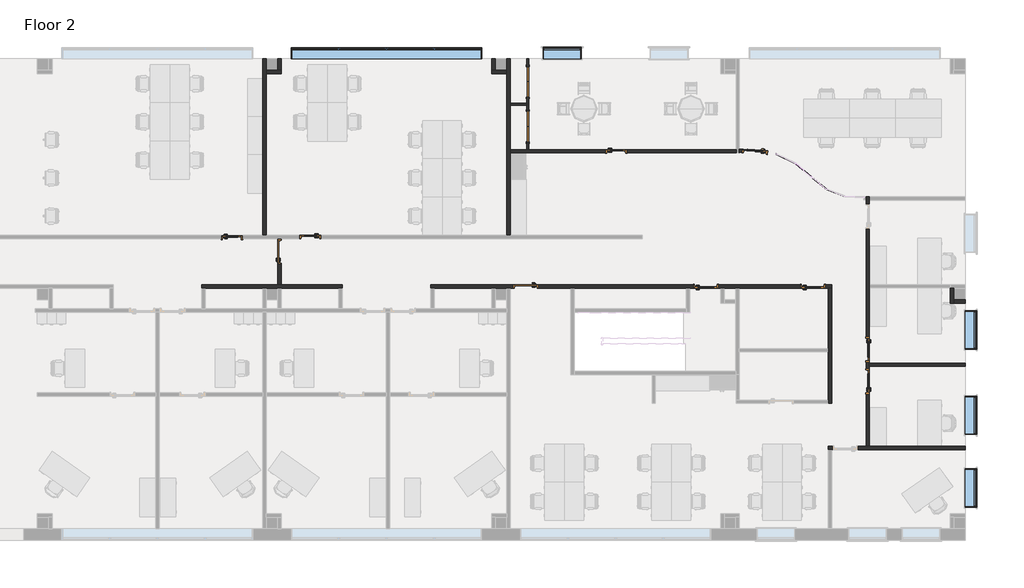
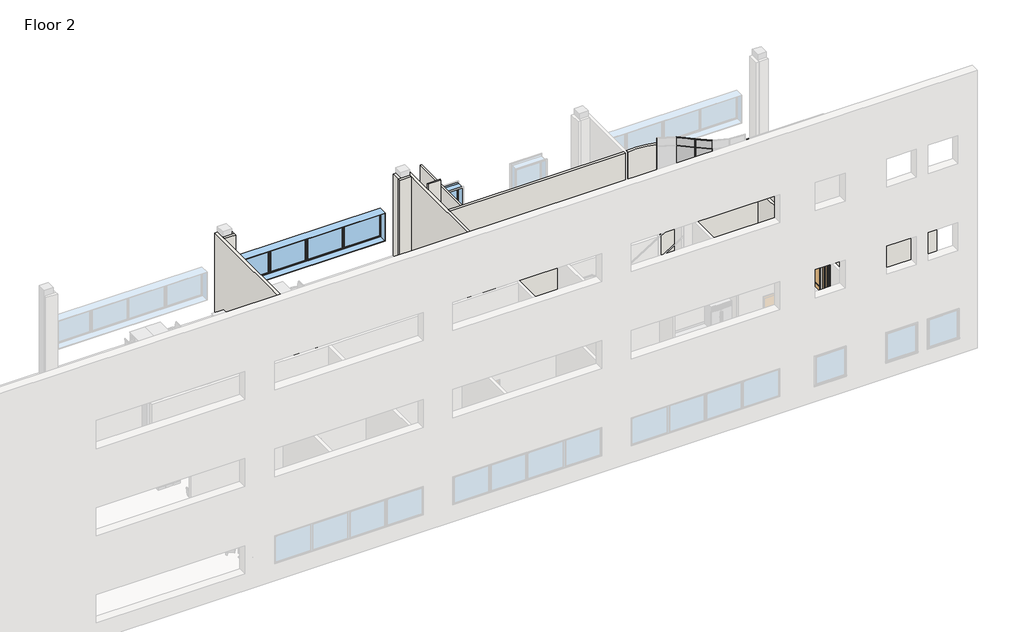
# One storey, part 4 of 7: 19 walls, 16 members, 12 doors, 6 plates, 5 windows.
"""IFC4 building model written with IfcOpenShell, lengths in millimetres."""

from ifc_helpers import new_model, si_unit, frame, origin, place, context, project, spatial, polyline, circle_curve, outline, extrude, faceted_brep, transform, mapped, element, save
from ifc_brep_helpers import plane_surface, cylinder_surface, revolved_surface, advanced_brep
from components import door_f69827bf, door_36f17018, door_a46f4f49, door_f206b04c, door_a28de425, door_74639fb8, door_4cfbdd5f, door_b5f71497, door_dac99271, member_834e91f0, member_ea1833a9, member_997af995, member_99ddd2ca, member_c703cf53, member_f42e476a, member_8995069b, member_6a737cc0, member_2ca0dabc, member_3a403b9d, member_f4e4bb89, system_panel_glazed_970fcf6f, system_panel_glazed_1b99a4e4, system_panel_glazed_e012e687, system_panel_glazed_4739128b, system_panel_glazed_9a7f91f8, system_panel_glazed_b32ab771, window_casement_multi_sash_horizontal_25_x_5ft_0e5d08e3, window_45f0c9e0

model = new_model("IFC4")

# Units and contexts
model_context = context("Model", 3, world=origin())
ifc_project = project(units=[si_unit("LENGTHUNIT", "METRE", prefix="MILLI")], contexts=[model_context])

# Site, building, storey
site = spatial("IfcSite", under=ifc_project)
building = spatial("IfcBuilding", under=site)
storey = spatial("IfcBuildingStorey", under=building, Name="Floor 2", Elevation=5486.4)

# Doors
placement = place(None, origin())
door_shape = door_f69827bf(model_context)
element("IfcDoor", 1, ObjectType="Door-Double-Flush_Panel : 48\" x 84\"", at=placement, inside=storey, context=model_context, shape_type="MappedRepresentation", body=[
    mapped(door_shape, transform((44045.2192024, 56452.299389, 5486.4), x_axis=(0.0, -1.0, 0.0), y_axis=(1.0, 0.0, 0.0), z_axis=(0.0, 0.0, 1.0))),
])
element("IfcDoor", 2, ObjectType="Door-Double-Flush_Panel : 48\" x 84\"", at=placement, inside=storey, context=model_context, shape_type="MappedRepresentation", body=[
    mapped(door_shape, transform((44045.2192024, 54660.011889, 5486.4), x_axis=(0.0, -1.0, 0.0), y_axis=(1.0, 0.0, 0.0), z_axis=(0.0, 0.0, 1.0))),
])
door_2_shape = door_36f17018(model_context)
element("IfcDoor", 3, ObjectType="Door-Passage-Single-Flush : 36\" x 84\"", at=placement, inside=storey, context=model_context, shape_type="MappedRepresentation", body=[
    mapped(door_2_shape, transform((43969.0192024, 48284.611889, 5486.4), x_axis=(-1.0, 0.0, 0.0), y_axis=(0.0, -1.0, 0.0), z_axis=(0.0, 0.0, 1.0))),
])
door_3_shape = door_a46f4f49(model_context)
element("IfcDoor", 4, ObjectType="Door-Passage-Single-Flush : 36\" x 84\"", at=placement, inside=storey, context=model_context, shape_type="MappedRepresentation", body=[
    mapped(door_3_shape, transform((34145.5692024, 49675.261889, 5486.4), x_axis=(0.0, 1.0, 0.0), y_axis=(-1.0, 0.0, 0.0), z_axis=(0.0, 0.0, 1.0))),
])
door_4_shape = door_f206b04c(model_context)
element("IfcDoor", 5, ObjectType="Door-Passage-Single-Full_Lite : 30\" x 84\"", at=placement, inside=storey, context=model_context, shape_type="MappedRepresentation", body=[
    mapped(door_4_shape, transform((47582.1692024, 53675.761889, 5486.4), x_axis=(1.0, 0.0, 0.0), y_axis=(0.0, 1.0, 0.0), z_axis=(0.0, 0.0, 1.0))),
])
door_5_shape = door_a28de425(model_context)
element("IfcDoor", 6, ObjectType="Door-Passage-Single-Full_Lite : 30\" x 84\"", at=placement, inside=storey, context=model_context, shape_type="MappedRepresentation", body=[
    mapped(door_5_shape, transform((35371.1192024, 50253.111889, 5486.4), x_axis=(-1.0, 0.0, 0.0), y_axis=(0.0, -1.0, 0.0), z_axis=(0.0, 0.0, 1.0))),
])
door_6_shape = door_74639fb8(model_context)
element("IfcDoor", 7, ObjectType="Door-Passage-Single-Full_Lite : 30\" x 84\"", at=placement, inside=storey, context=model_context, shape_type="MappedRepresentation", body=[
    mapped(door_6_shape, transform((32240.5692024, 50253.111889, 5486.4), x_axis=(1.0, 0.0, 0.0), y_axis=(0.0, 1.0, 0.0), z_axis=(0.0, 0.0, 1.0))),
])
door_7_shape = door_4cfbdd5f(model_context)
element("IfcDoor", 8, ObjectType="Door-Passage-Single-Full_Lite : 36\" x 84\"", at=placement, inside=storey, context=model_context, shape_type="MappedRepresentation", body=[
    mapped(door_7_shape, transform((55424.4192024, 48297.311889, 5486.4), x_axis=(1.0, 0.0, 0.0), y_axis=(0.0, 1.0, 0.0), z_axis=(0.0, 0.0, 1.0))),
])
element("IfcDoor", 9, ObjectType="Door-Passage-Single-Full_Lite : 36\" x 84\"", at=placement, inside=storey, context=model_context, shape_type="MappedRepresentation", body=[
    mapped(door_7_shape, transform((51157.2192024, 48297.311889, 5486.4), x_axis=(1.0, 0.0, 0.0), y_axis=(0.0, 1.0, 0.0), z_axis=(0.0, 0.0, 1.0))),
])
door_8_shape = door_b5f71497(model_context)
element("IfcDoor", 10, ObjectType="Door-Passage-Single-Full_Lite : 36\" x 84\"", at=placement, inside=storey, context=model_context, shape_type="MappedRepresentation", body=[
    mapped(door_8_shape, transform((53107.2341239, 53660.5521638, 5486.4), x_axis=(-0.9977672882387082, 0.06678651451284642, 0.0), y_axis=(-0.06678651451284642, -0.9977672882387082, 0.0), z_axis=(0.0, 0.0, 1.0))),
])
element("IfcDoor", 11, ObjectType="Door-Passage-Single-Full_Lite : 36\" x 84\"", at=placement, inside=storey, context=model_context, shape_type="MappedRepresentation", body=[
    mapped(door_8_shape, transform((57608.8192024, 44497.8952223, 5486.4), x_axis=(0.0, 1.0, 0.0), y_axis=(-1.0, 0.0, 0.0), z_axis=(0.0, 0.0, 1.0))),
])
door_9_shape = door_dac99271(model_context)
element("IfcDoor", 12, ObjectType="Door-Passage-Single-Full_Lite : 36\" x 84\"", at=placement, inside=storey, context=model_context, shape_type="MappedRepresentation", body=[
    mapped(door_9_shape, transform((57608.8192024, 45767.8952223, 5486.4), x_axis=(0.0, -1.0, 0.0), y_axis=(1.0, 0.0, 0.0), z_axis=(0.0, 0.0, 1.0))),
])

# Members
member_shape = member_834e91f0(model_context)
element("IfcMember", 13, ObjectType="Rectangular Mullion1 : 1\" Square", at=placement, inside=storey, context=model_context, shape_type="MappedRepresentation", body=[
    mapped(member_shape, transform((55370.0845568, 52611.7453813, 10210.8), x_axis=(0.0, 0.0, 1.0), y_axis=(-0.6484934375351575, -0.7612202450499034, 0.0), z_axis=(0.7612202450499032, -0.6484934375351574, 0.0))),
])
element("IfcMember", 14, ObjectType="Rectangular Mullion1 : 1\" Square", at=placement, inside=storey, context=model_context, shape_type="MappedRepresentation", body=[
    mapped(member_shape, transform((53929.3841475, 53547.3000917, 5486.4), x_axis=(0.0, 0.0, -1.0), y_axis=(-0.43160178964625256, -0.9020642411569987, 0.0), z_axis=(-0.9020642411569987, 0.43160178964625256, 0.0))),
])
member_2_shape = member_ea1833a9(model_context)
element("IfcMember", 15, ObjectType="Rectangular Mullion1 : 1\" Square", at=placement, inside=storey, context=model_context, shape_type="MappedRepresentation", body=[
    mapped(member_2_shape, transform((55350.7495626, 52628.2171146, 7620.0), x_axis=(0.0, 0.0, 1.0), y_axis=(-0.6484934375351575, -0.7612202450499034, 0.0), z_axis=(0.7612202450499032, -0.6484934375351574, 0.0))),
])
member_3_shape = member_997af995(model_context)
element("IfcMember", 16, ObjectType="Rectangular Mullion1 : 1\" Square", at=placement, inside=storey, context=model_context, shape_type="MappedRepresentation", body=[
    mapped(member_3_shape, transform((55973.7447178, 52125.501763, 5511.8), x_axis=(0.867376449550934, -0.4976525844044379, 0.0), y_axis=(-0.4976525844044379, -0.867376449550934, 0.0), z_axis=(0.0, 0.0, -1.0))),
])
member_4_shape = member_99ddd2ca(model_context)
element("IfcMember", 17, ObjectType="Rectangular Mullion1 : 1\" Square", at=placement, inside=storey, context=model_context, shape_type="MappedRepresentation", body=[
    mapped(member_4_shape, transform((55973.7447178, 52125.501763, 7632.7), x_axis=(0.867376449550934, -0.4976525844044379, 0.0), y_axis=(-0.4976525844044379, -0.867376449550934, 0.0), z_axis=(0.0, 0.0, -1.0))),
])
member_5_shape = member_c703cf53(model_context)
element("IfcMember", 18, ObjectType="Rectangular Mullion1 : 1\" Square", at=placement, inside=storey, context=model_context, shape_type="MappedRepresentation", body=[
    mapped(member_5_shape, transform((55973.7447178, 52125.501763, 10210.8), x_axis=(0.0, 0.0, 1.0), y_axis=(-0.6272996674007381, -0.7787779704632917, 0.0), z_axis=(0.7787779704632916, -0.627299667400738, 0.0))),
])
member_6_shape = member_f42e476a(model_context)
element("IfcMember", 19, ObjectType="Rectangular Mullion1 : 1\" Square", at=placement, inside=storey, context=model_context, shape_type="MappedRepresentation", body=[
    mapped(member_6_shape, transform((55370.0845568, 52611.7453813, 5486.4), x_axis=(0.0, 0.0, -1.0), y_axis=(-0.6272996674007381, -0.7787779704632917, 0.0), z_axis=(-0.7787779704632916, 0.627299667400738, 0.0))),
])
member_7_shape = member_8995069b(model_context)
element("IfcMember", 20, ObjectType="Rectangular Mullion1 : 1\" Square", at=placement, inside=storey, context=model_context, shape_type="MappedRepresentation", body=[
    mapped(member_7_shape, transform((55973.7447178, 52125.501763, 5486.4), x_axis=(0.0, 0.0, -1.0), y_axis=(-0.3557343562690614, -0.9345871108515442, 0.0), z_axis=(-0.9345871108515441, 0.35573435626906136, 0.0))),
])
member_8_shape = member_6a737cc0(model_context)
element("IfcMember", 21, ObjectType="Rectangular Mullion1 : 1\" Square", at=placement, inside=storey, context=model_context, shape_type="MappedRepresentation", body=[
    mapped(member_8_shape, transform((55973.7447178, 52125.501763, 7620.0), x_axis=(0.0, 0.0, 1.0), y_axis=(-0.6272996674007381, -0.7787779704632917, 0.0), z_axis=(0.7787779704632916, -0.627299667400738, 0.0))),
])
member_9_shape = member_2ca0dabc(model_context)
element("IfcMember", 22, ObjectType="Rectangular Mullion1 : 1\" Square", at=placement, inside=storey, context=model_context, shape_type="MappedRepresentation", body=[
    mapped(member_9_shape, transform((55370.0845568, 52611.7453813, 5511.8), x_axis=(0.7612202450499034, -0.6484934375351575, 0.0), y_axis=(-0.6484934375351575, -0.7612202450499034, 0.0), z_axis=(0.0, 0.0, -1.0))),
])
member_10_shape = member_3a403b9d(model_context)
element("IfcMember", 23, ObjectType="Rectangular Mullion1 : 1\" Square", at=placement, inside=storey, context=model_context, shape_type="MappedRepresentation", body=[
    mapped(member_10_shape, transform((55370.0845568, 52611.7453813, 7620.0), x_axis=(0.7612202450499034, -0.6484934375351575, 0.0), y_axis=(-0.6484934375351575, -0.7612202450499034, 0.0), z_axis=(0.0, 0.0, -1.0))),
])
member_11_shape = member_f4e4bb89(model_context)
element("IfcMember", 24, ObjectType="Rectangular Mullion1 : 1\" Square", at=placement, inside=storey, context=model_context, shape_type="MappedRepresentation", body=[
    mapped(member_11_shape, transform((53929.3841475, 53547.3000917, 10185.4), x_axis=(-0.9020642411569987, 0.43160178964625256, 0.0), y_axis=(-0.43160178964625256, -0.9020642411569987, 0.0), z_axis=(0.0, 0.0, 1.0))),
])
element("IfcMember", 25, ObjectType="Rectangular Mullion1 : 1\" Square", at=placement, inside=storey, context=model_context, shape_type="MappedRepresentation", body=[
    mapped(member_11_shape, transform((55370.0845568, 52611.7453813, 10185.4), x_axis=(-0.7787779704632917, 0.6272996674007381, 0.0), y_axis=(-0.6272996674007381, -0.7787779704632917, 0.0), z_axis=(0.0, 0.0, 1.0))),
])
element("IfcMember", 26, ObjectType="Rectangular Mullion1 : 1\" Square", at=placement, inside=storey, context=model_context, shape_type="MappedRepresentation", body=[
    mapped(member_9_shape, transform((53929.3841475, 53547.3000917, 7620.0), x_axis=(-0.9020642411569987, 0.43160178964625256, 0.0), y_axis=(-0.43160178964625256, -0.9020642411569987, 0.0), z_axis=(0.0, 0.0, 1.0))),
])
element("IfcMember", 27, ObjectType="Rectangular Mullion1 : 1\" Square", at=placement, inside=storey, context=model_context, shape_type="MappedRepresentation", body=[
    mapped(member_9_shape, transform((55370.0845568, 52611.7453813, 7620.0), x_axis=(-0.7787779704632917, 0.6272996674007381, 0.0), y_axis=(-0.6272996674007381, -0.7787779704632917, 0.0), z_axis=(0.0, 0.0, 1.0))),
])
element("IfcMember", 28, ObjectType="Rectangular Mullion1 : 1\" Square", at=placement, inside=storey, context=model_context, shape_type="MappedRepresentation", body=[
    mapped(member_10_shape, transform((53929.3841475, 53547.3000917, 9753.6), x_axis=(-0.9020642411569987, 0.43160178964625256, 0.0), y_axis=(-0.43160178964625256, -0.9020642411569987, 0.0), z_axis=(0.0, 0.0, 1.0))),
])

# Plates
system_panel_glazed_shape = system_panel_glazed_970fcf6f(model_context)
element("IfcPlate", 29, ObjectType="System Panel : Glazed", at=placement, inside=storey, context=model_context, shape_type="MappedRepresentation", body=[
    mapped(system_panel_glazed_shape, transform((55035.5746982, 52896.718685, 5511.8), x_axis=(0.7612202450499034, -0.6484934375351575, 0.0), y_axis=(0.6484934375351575, 0.7612202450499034, 0.0), z_axis=(0.0, 0.0, 1.0))),
])
system_panel_glazed_2_shape = system_panel_glazed_1b99a4e4(model_context)
element("IfcPlate", 30, ObjectType="System Panel : Glazed", at=placement, inside=storey, context=model_context, shape_type="MappedRepresentation", body=[
    mapped(system_panel_glazed_2_shape, transform((55035.5746982, 52896.718685, 7632.7), x_axis=(0.7612202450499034, -0.6484934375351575, 0.0), y_axis=(0.6484934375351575, 0.7612202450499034, 0.0), z_axis=(0.0, 0.0, 1.0))),
])
system_panel_glazed_3_shape = system_panel_glazed_e012e687(model_context)
element("IfcPlate", 31, ObjectType="System Panel : Glazed", at=placement, inside=storey, context=model_context, shape_type="MappedRepresentation", body=[
    mapped(system_panel_glazed_3_shape, transform((55676.8598774, 52364.6402193, 5511.8), x_axis=(0.7787779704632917, -0.6272996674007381, 0.0), y_axis=(0.6272996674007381, 0.7787779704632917, 0.0), z_axis=(0.0, 0.0, 1.0))),
])
system_panel_glazed_4_shape = system_panel_glazed_4739128b(model_context)
element("IfcPlate", 32, ObjectType="System Panel : Glazed", at=placement, inside=storey, context=model_context, shape_type="MappedRepresentation", body=[
    mapped(system_panel_glazed_4_shape, transform((55676.8598774, 52364.6402193, 7632.7), x_axis=(0.7787779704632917, -0.6272996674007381, 0.0), y_axis=(0.6272996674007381, 0.7787779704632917, 0.0), z_axis=(0.0, 0.0, 1.0))),
])
system_panel_glazed_5_shape = system_panel_glazed_9a7f91f8(model_context)
element("IfcPlate", 33, ObjectType="System Panel : Glazed", at=placement, inside=storey, context=model_context, shape_type="MappedRepresentation", body=[
    mapped(system_panel_glazed_5_shape, transform((55035.5746982, 52896.718685, 9766.3), x_axis=(0.7612202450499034, -0.6484934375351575, 0.0), y_axis=(0.6484934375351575, 0.7612202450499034, 0.0), z_axis=(0.0, 0.0, 1.0))),
])
system_panel_glazed_6_shape = system_panel_glazed_b32ab771(model_context)
element("IfcPlate", 34, ObjectType="System Panel : Glazed", at=placement, inside=storey, context=model_context, shape_type="MappedRepresentation", body=[
    mapped(system_panel_glazed_6_shape, transform((55676.8598774, 52364.6402193, 9766.3), x_axis=(0.7787779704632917, -0.6272996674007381, 0.0), y_axis=(0.6272996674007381, 0.7787779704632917, 0.0), z_axis=(0.0, 0.0, 1.0))),
])

# Walls
element("IfcWall", 35, ObjectType="Interior - 3 1/8\" Partition (1-hr)", at=placement, inside=storey, context=model_context, shape_type="Brep", body=[
    faceted_brep([(44084.9067024, 53744.024389, 9906.0), (44084.9067024, 53744.024389, 5486.4), (44084.9067024, 54050.411889, 5486.4), (44084.9067024, 54050.411889, 7620.0), (44084.9067024, 55269.611889, 7620.0), (44084.9067024, 55269.611889, 5486.4), (44084.9067024, 55842.699389, 5486.4), (44084.9067024, 55842.699389, 7620.0), (44084.9067024, 57061.899389, 7620.0), (44084.9067024, 57061.899389, 5486.4), (44084.9067024, 57366.699389, 5486.4), (44084.9067024, 57366.699389, 9906.0), (44005.5317024, 53744.024389, 5486.4), (44005.5317024, 53744.024389, 9906.0), (44005.5317024, 57366.699389, 9906.0), (44005.5317024, 57366.699389, 5486.4), (44005.5317024, 57061.899389, 5486.4), (44005.5317024, 57061.899389, 7620.0), (44005.5317024, 55842.699389, 7620.0), (44005.5317024, 55842.699389, 5486.4), (44005.5317024, 55595.843139, 5486.4), (44005.5317024, 55516.468139, 5486.4), (44005.5317024, 55269.611889, 5486.4), (44005.5317024, 55269.611889, 7620.0), (44005.5317024, 54050.411889, 7620.0), (44005.5317024, 54050.411889, 5486.4)], [[[0, 1, 2, 3, 4, 5, 6, 7, 8, 9, 10, 11]], [[12, 13, 14, 15, 16, 17, 18, 19, 20, 21, 22, 23, 24, 25]], [[1, 12, 25, 2]], [[15, 10, 9, 16]], [[19, 6, 5, 22, 21, 20]], [[1, 0, 13, 12]], [[11, 10, 15, 14]], [[0, 11, 14, 13]], [[18, 7, 6, 19]], [[7, 18, 17, 8]], [[8, 17, 16, 9]], [[24, 3, 2, 25]], [[3, 24, 23, 4]], [[4, 23, 22, 5]]]),
])
element("IfcWall", 36, ObjectType="Interior - 3 1/8\" Partition (1-hr)", at=placement, inside=storey, context=model_context, shape_type="SweptSolid", body=[
    extrude(outline(polyline([(43353.0692024, 55595.843139), (44005.5317024, 55595.843139), (44005.5317024, 55516.468139), (43353.0692024, 55516.468139), (43353.0692024, 55595.843139)])), frame((0.0, 0.0, 5486.4), z_axis=(0.0, 0.0, 1.0), x_axis=(1.0, 0.0, 0.0)), (0.0, 0.0, 1.0), 4724.4),
])
element("IfcWall", 37, ObjectType="Interior - 4 7/8\" Partition (1-hr)", at=placement, inside=storey, context=model_context, shape_type="Brep", body=[
    faceted_brep([(48013.9692024, 53620.199389, 7721.6), (48013.9692024, 53620.199389, 5486.4), (52365.3067024, 53620.199389, 5486.4), (52365.3067024, 53620.199389, 9906.0), (43353.0692024, 53620.199389, 9906.0), (43353.0692024, 53620.199389, 5486.4), (47150.3692024, 53620.199389, 5486.4), (47150.3692024, 53620.199389, 7721.6), (52365.3067024, 53744.024389, 5486.4), (48013.9692024, 53744.024389, 5486.4), (48013.9692024, 53744.024389, 7721.6), (47150.3692024, 53744.024389, 7721.6), (47150.3692024, 53744.024389, 5486.4), (44084.9067024, 53744.024389, 5486.4), (44005.5317024, 53744.024389, 5486.4), (43353.0692024, 53744.024389, 5486.4), (43353.0692024, 53744.024389, 9906.0), (44005.5317024, 53744.024389, 9906.0), (44084.9067024, 53744.024389, 9906.0), (52365.3067024, 53744.024389, 9906.0)], [[[0, 1, 2, 3, 4, 5, 6, 7]], [[8, 9, 10, 11, 12, 13, 14, 15, 16, 17, 18, 19]], [[2, 1, 9, 8]], [[6, 5, 15, 14, 13, 12]], [[8, 19, 3, 2]], [[16, 15, 5, 4]], [[19, 18, 17, 16, 4, 3]], [[10, 9, 1, 0]], [[11, 10, 0, 7]], [[12, 11, 7, 6]]]),
])
element("IfcWall", 38, ObjectType="Interior - 4 7/8\" Partition (1-hr)", at=placement, inside=storey, context=model_context, shape_type="Brep", body=[
    faceted_brep([(56048.3067024, 41777.449389, 5486.4), (56172.1317024, 41777.449389, 5486.4), (56211.8192024, 41777.449389, 5486.4), (56211.8192024, 41777.449389, 7721.6), (57227.8192024, 41777.449389, 7721.6), (57227.8192024, 41777.449389, 5486.4), (61502.9567024, 41777.449389, 5486.4), (61502.9567024, 41777.449389, 9906.0), (56172.1317024, 41777.449389, 9906.0), (56048.3067024, 41777.449389, 9906.0), (56211.8192024, 41901.274389, 7721.6), (56211.8192024, 41901.274389, 5486.4), (56048.3067024, 41901.274389, 5486.4), (56048.3067024, 41901.274389, 9906.0), (57553.2567024, 41901.274389, 9906.0), (57677.0817024, 41901.274389, 9906.0), (61502.9567024, 41901.274389, 9906.0), (61502.9567024, 41901.274389, 5486.4), (57677.0817024, 41901.274389, 5486.4), (57553.2567024, 41901.274389, 5486.4), (57227.8192024, 41901.274389, 5486.4), (57227.8192024, 41901.274389, 7721.6)], [[[0, 1, 2, 3, 4, 5, 6, 7, 8, 9]], [[10, 11, 12, 13, 14, 15, 16, 17, 18, 19, 20, 21]], [[12, 11, 2, 1, 0]], [[20, 19, 18, 17, 6, 5]], [[16, 15, 14, 13, 9, 8, 7]], [[13, 12, 0, 9]], [[17, 16, 7, 6]], [[3, 2, 11, 10]], [[4, 3, 10, 21]], [[5, 4, 21, 20]]]),
])
element("IfcWall", 39, ObjectType="Interior - 4 7/8\" Partition (1-hr)", at=placement, inside=storey, context=model_context, shape_type="Brep", body=[
    faceted_brep([(57553.2567024, 45259.8952223, 5486.4), (57553.2567024, 45005.8952223, 5486.4), (57553.2567024, 45005.8952223, 7721.6), (57553.2567024, 43989.8952223, 7721.6), (57553.2567024, 43989.8952223, 5486.4), (57553.2567024, 41901.274389, 5486.4), (57553.2567024, 41901.274389, 9906.0), (57553.2567024, 51740.023538, 9906.0), (57553.2567024, 51858.074389, 9906.0), (57553.2567024, 51858.074389, 5486.4), (57553.2567024, 51740.023538, 5486.4), (57553.2567024, 51592.961889, 5486.4), (57553.2567024, 51592.961889, 7721.6), (57553.2567024, 50576.961889, 7721.6), (57553.2567024, 50576.961889, 5486.4), (57553.2567024, 46275.8952223, 5486.4), (57553.2567024, 46275.8952223, 7721.6), (57553.2567024, 45259.8952223, 7721.6), (57677.0817024, 45005.8952223, 7721.6), (57677.0817024, 45005.8952223, 5486.4), (57677.0817024, 45096.3827223, 5486.4), (57677.0817024, 45220.2077223, 5486.4), (57677.0817024, 45259.8952223, 5486.4), (57677.0817024, 45259.8952223, 7721.6), (57677.0817024, 46275.8952223, 7721.6), (57677.0817024, 46275.8952223, 5486.4), (57677.0817024, 48235.399389, 5486.4), (57677.0817024, 48359.224389, 5486.4), (57677.0817024, 50576.961889, 5486.4), (57677.0817024, 50576.961889, 7721.6), (57677.0817024, 51592.961889, 7721.6), (57677.0817024, 51592.961889, 5486.4), (57677.0817024, 51734.249389, 5486.4), (57677.0817024, 51858.074389, 5486.4), (57677.0817024, 51858.074389, 9906.0), (57677.0817024, 51734.249389, 9906.0), (57677.0817024, 48359.224389, 9906.0), (57677.0817024, 48235.399389, 9906.0), (57677.0817024, 45220.2077223, 9906.0), (57677.0817024, 45096.3827223, 9906.0), (57677.0817024, 41901.274389, 9906.0), (57677.0817024, 41901.274389, 5486.4), (57677.0817024, 43989.8952223, 5486.4), (57677.0817024, 43989.8952223, 7721.6), (57618.0176704, 51858.074389, 5486.4), (57618.0176704, 51858.074389, 9906.0)], [[[0, 1, 2, 3, 4, 5, 6, 7, 8, 9, 10, 11, 12, 13, 14, 15, 16, 17]], [[18, 19, 20, 21, 22, 23, 24, 25, 26, 27, 28, 29, 30, 31, 32, 33, 34, 35, 36, 37, 38, 39, 40, 41, 42, 43]], [[33, 32, 31, 11, 10, 9, 44]], [[22, 21, 20, 19, 1, 0]], [[15, 14, 28, 27, 26, 25]], [[42, 41, 5, 4]], [[41, 40, 6, 5]], [[34, 33, 44, 9, 8, 45]], [[40, 39, 38, 37, 36, 35, 34, 45, 8, 7, 6]], [[12, 11, 31, 30]], [[13, 12, 30, 29]], [[14, 13, 29, 28]], [[23, 22, 0, 17]], [[24, 23, 17, 16]], [[25, 24, 16, 15]], [[2, 1, 19, 18]], [[3, 2, 18, 43]], [[4, 3, 43, 42]]]),
])
element("IfcWall", 40, ObjectType="Interior - 4 7/8\" Partition (1-hr)", at=placement, inside=storey, context=model_context, shape_type="SweptSolid", body=[
    extrude(outline(polyline([(57677.0817024, 45220.2077223), (61502.9567024, 45220.2077223), (61502.9567024, 45096.3827223), (57677.0817024, 45096.3827223), (57677.0817024, 45220.2077223)])), frame((0.0, 0.0, 5486.4), z_axis=(0.0, 0.0, 1.0), x_axis=(1.0, 0.0, 0.0)), (0.0, 0.0, 1.0), 4419.6),
])
element("IfcWall", 41, ObjectType="Interior - 4 7/8\" Partition (1-hr)", at=placement, inside=storey, context=model_context, shape_type="AdvancedBrep", body=[
    advanced_brep(
    [(52489.1317024, 53752.4422892, 5486.4), (52605.0241832, 53764.0363688, 5486.4), (52596.6575157, 53639.0412683, 5486.4), (52489.1317024, 53627.7357637, 5486.4), (53618.755748, 53696.1812701, 5486.4), (53948.6598073, 53606.1355113, 5486.4), (53910.1084878, 53488.4646722, 5486.4), (53610.3890806, 53571.1861695, 5486.4), (52605.0241832, 53764.0363688, 7721.6), (52489.1317024, 53752.4422892, 9906.0), (53948.6598073, 53606.1355113, 9906.0), (53618.755748, 53696.1812701, 7721.6), (52596.6575157, 53639.0412683, 7721.6), (53610.3890806, 53571.1861695, 7721.6), (53910.1084878, 53488.4646722, 9906.0), (52489.1317024, 53627.7357637, 9906.0)],
    [
        (0, 1, circle_curve(frame((52886.6031482, 50364.4021575, 5486.4), z_axis=(0.0, 0.0, -1.0), x_axis=(1.0, 0.0, 0.0)), 3411.2753457)),
        (1, 2),
        (2, 3, circle_curve(frame((52886.6031482, 50364.4021575, 5486.4), z_axis=(0.0, 0.0, 1.0), x_axis=(1.0, 0.0, 0.0)), 3287.4503457)),
        (3, 0),
        (4, 5, circle_curve(frame((52886.6031482, 50364.4021575, 5486.4), z_axis=(0.0, 0.0, -1.0), x_axis=(1.0, 0.0, 0.0)), 3411.2753457)),
        (5, 6),
        (6, 7, circle_curve(frame((52886.6031482, 50364.4021575, 5486.4), z_axis=(0.0, 0.0, 1.0), x_axis=(1.0, 0.0, 0.0)), 3287.4503457)),
        (7, 4),
        (8, 1),
        (0, 9),
        (9, 10, circle_curve(frame((52886.6031482, 50364.4021575, 9906.0), z_axis=(0.0, 0.0, -1.0), x_axis=(1.0, 0.0, 0.0)), 3411.2753457)),
        (10, 5),
        (4, 11),
        (11, 8, circle_curve(frame((52886.6031482, 50364.4021575, 7721.6), z_axis=(0.0, 0.0, 1.0), x_axis=(1.0, 0.0, 0.0)), 3411.2753457)),
        (2, 12),
        (12, 13, circle_curve(frame((52886.6031482, 50364.4021575, 7721.6), z_axis=(0.0, 0.0, -1.0), x_axis=(1.0, 0.0, 0.0)), 3287.4503457)),
        (13, 7),
        (6, 14),
        (14, 15, circle_curve(frame((52886.6031482, 50364.4021575, 9906.0), z_axis=(0.0, 0.0, 1.0), x_axis=(1.0, 0.0, 0.0)), 3287.4503457)),
        (15, 3),
        (10, 14),
        (15, 9),
        (8, 12),
        (11, 13),
    ],
    [
        plane_surface(frame((56297.878494, 50364.4021575, 5486.4), z_axis=(0.0, 0.0, -1.0), x_axis=(0.0, -1.0, 0.0))),
        cylinder_surface(frame((52886.6031482, 50364.4021575, 5486.4), z_axis=(0.0, 0.0, 1.0), x_axis=(1.0, 0.0, 0.0)), 3411.2753457),
        revolved_surface(polyline([(56174.053493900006, 50364.4021575, 5486.4), (56174.053493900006, 50364.4021575, 9906.0)]), (52886.6031482, 50364.4021575, 5486.4), (0.0, 0.0, -1.0)),
        plane_surface(frame((53910.1084878, 53488.4646722, 9906.0), z_axis=(0.9502995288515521, -0.3113371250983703, 0.0), x_axis=(0.0, 0.0, -1.0))),
        plane_surface(frame((52489.1317024, 56501.511889, 5486.4), z_axis=(-1.0, 0.0, 0.0), x_axis=(0.0, 1.0, 0.0))),
        plane_surface(frame((61502.9567024, 57366.699389, 9906.0), z_axis=(0.0, 0.0, 1.0), x_axis=(0.0, -1.0, 0.0))),
        plane_surface(frame((52596.6575157, 53639.0412683, 5486.4), z_axis=(0.9977672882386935, -0.06678651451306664, 0.0), x_axis=(0.06678651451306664, 0.9977672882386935, 0.0))),
        plane_surface(frame((52596.6575157, 53639.0412683, 7721.6), z_axis=(0.0, 0.0, -1.0), x_axis=(0.06678651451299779, 0.9977672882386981, 0.0))),
        plane_surface(frame((53610.3890806, 53571.1861695, 7721.6), z_axis=(-0.9977672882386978, 0.0667865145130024, 0.0), x_axis=(0.0667865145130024, 0.9977672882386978, 0.0))),
    ],
    [
        (0, [[1, 2, 3, 4]]),
        (0, [[5, 6, 7, 8]]),
        (1, [[9, -1, 10, 11, 12, -5, 13, 14]]),
        (2, [[-3, 15, 16, 17, -7, 18, 19, 20]]),
        (3, [[21, -18, -6, -12]]),
        (4, [[22, -10, -4, -20]]),
        (5, [[-11, -22, -19, -21]]),
        (6, [[-15, -2, -9, 23]]),
        (7, [[-16, -23, -14, 24]]),
        (8, [[-17, -24, -13, -8]]),
    ],
),
])
element("IfcWall", 42, ObjectType="Interior - 4 7/8\" Partition (1-hr)", at=placement, inside=storey, context=model_context, shape_type="Brep", body=[
    faceted_brep([(56048.3067024, 48221.111889, 5486.4), (56048.3067024, 45800.174389, 5486.4), (56048.3067024, 45676.349389, 5486.4), (56048.3067024, 43742.774389, 5486.4), (56048.3067024, 43618.949389, 5486.4), (56048.3067024, 43618.949389, 9906.0), (56048.3067024, 43742.774389, 9906.0), (56048.3067024, 45676.349389, 9906.0), (56048.3067024, 45800.174389, 9906.0), (56048.3067024, 48221.111889, 9906.0), (56172.1317024, 48221.111889, 5486.4), (56172.1317024, 48221.111889, 9906.0), (56172.1317024, 43618.949389, 9906.0), (56172.1317024, 43618.949389, 5486.4)], [[[0, 1, 2, 3, 4, 5, 6, 7, 8, 9]], [[10, 11, 12, 13]], [[4, 3, 2, 1, 0, 10, 13]], [[5, 4, 13, 12]], [[0, 9, 11, 10]], [[9, 8, 7, 6, 5, 12, 11]]]),
])
element("IfcWall", 43, ObjectType="Interior - 5 1/2\" Partition (1-hr)", at=placement, inside=storey, context=model_context, shape_type="Brep", body=[
    faceted_brep([(43353.0692024, 50329.311889, 5486.4), (43353.0692024, 53620.199389, 5486.4), (43353.0692024, 53744.024389, 5486.4), (43353.0692024, 55516.468139, 5486.4), (43353.0692024, 55595.843139, 5486.4), (43353.0692024, 57366.699389, 5486.4), (43353.0692024, 57366.699389, 9906.0), (43353.0692024, 53744.024389, 9906.0), (43353.0692024, 53620.199389, 9906.0), (43353.0692024, 50329.311889, 9906.0), (43213.3692024, 50329.311889, 5486.4), (43213.3692024, 50329.311889, 9906.0), (43213.3692024, 56768.211889, 9906.0), (43213.3692024, 56907.911889, 9906.0), (43213.3692024, 57366.699389, 9906.0), (43213.3692024, 57366.699389, 5486.4), (43213.3692024, 57365.111889, 5486.4), (43213.3692024, 56907.911889, 5486.4), (43213.3692024, 56768.211889, 5486.4)], [[[0, 1, 2, 3, 4, 5, 6, 7, 8, 9]], [[10, 11, 12, 13, 14, 15, 16, 17, 18]], [[5, 4, 3, 2, 1, 0, 10, 18, 17, 16, 15]], [[6, 5, 15, 14]], [[0, 9, 11, 10]], [[9, 8, 7, 6, 14, 13, 12, 11]]]),
])
element("IfcWall", 44, ObjectType="Interior - 5 1/2\" Partition (1-hr)", at=placement, inside=storey, context=model_context, shape_type="Brep", body=[
    faceted_brep([(43213.3692024, 56907.911889, 5486.4), (42756.1692024, 56907.911889, 5486.4), (42616.4692024, 56907.911889, 5486.4), (42616.4692024, 56907.911889, 9906.0), (42756.1692024, 56907.911889, 9906.0), (43213.3692024, 56907.911889, 9906.0), (43213.3692024, 56768.211889, 5486.4), (43213.3692024, 56768.211889, 9906.0), (42616.4692024, 56768.211889, 9906.0), (42616.4692024, 56768.211889, 5486.4)], [[[0, 1, 2, 3, 4, 5]], [[6, 7, 8, 9]], [[2, 1, 0, 6, 9]], [[3, 2, 9, 8]], [[0, 5, 7, 6]], [[5, 4, 3, 8, 7]]]),
])
element("IfcWall", 45, ObjectType="Interior - 5 1/2\" Partition (1-hr)", at=placement, inside=storey, context=model_context, shape_type="Brep", body=[
    faceted_brep([(42756.1692024, 56907.911889, 5486.4), (42756.1692024, 57365.111889, 5486.4), (42756.1692024, 57366.699389, 5486.4), (42756.1692024, 57366.699389, 9906.0), (42756.1692024, 56907.911889, 9906.0), (42616.4692024, 56907.911889, 5486.4), (42616.4692024, 56907.911889, 9906.0), (42616.4692024, 57366.699389, 9906.0), (42616.4692024, 57366.699389, 5486.4)], [[[0, 1, 2, 3, 4]], [[5, 6, 7, 8]], [[2, 1, 0, 5, 8]], [[0, 4, 6, 5]], [[3, 2, 8, 7]], [[4, 3, 7, 6]]]),
])
element("IfcWall", 46, ObjectType="Interior - 5 1/2\" Partition (1-hr)", at=placement, inside=storey, context=model_context, shape_type="Brep", body=[
    faceted_brep([(33472.4692024, 57366.699389, 5486.4), (33472.4692024, 50329.311889, 5486.4), (33472.4692024, 50329.311889, 9906.0), (33472.4692024, 57366.699389, 9906.0), (33612.1692024, 57366.699389, 5486.4), (33612.1692024, 57366.699389, 9906.0), (33612.1692024, 56907.911889, 9906.0), (33612.1692024, 56768.211889, 9906.0), (33612.1692024, 50329.311889, 9906.0), (33612.1692024, 50329.311889, 5486.4), (33612.1692024, 56768.211889, 5486.4), (33612.1692024, 56907.911889, 5486.4), (33612.1692024, 57365.111889, 5486.4)], [[[0, 1, 2, 3]], [[4, 5, 6, 7, 8, 9, 10, 11, 12]], [[1, 0, 4, 12, 11, 10, 9]], [[0, 3, 5, 4]], [[2, 1, 9, 8]], [[3, 2, 8, 7, 6, 5]]]),
])
element("IfcWall", 47, ObjectType="Interior - 5 1/2\" Partition (1-hr)", at=placement, inside=storey, context=model_context, shape_type="Brep", body=[
    faceted_brep([(33612.1692024, 56768.211889, 5486.4), (34209.0692024, 56768.211889, 5486.4), (34209.0692024, 56768.211889, 9906.0), (33612.1692024, 56768.211889, 9906.0), (33612.1692024, 56907.911889, 5486.4), (33612.1692024, 56907.911889, 9906.0), (34069.3692024, 56907.911889, 9906.0), (34209.0692024, 56907.911889, 9906.0), (34209.0692024, 56907.911889, 5486.4), (34069.3692024, 56907.911889, 5486.4)], [[[0, 1, 2, 3]], [[4, 5, 6, 7, 8, 9]], [[1, 0, 4, 9, 8]], [[2, 1, 8, 7]], [[0, 3, 5, 4]], [[3, 2, 7, 6, 5]]]),
])
element("IfcWall", 48, ObjectType="Interior - 5 1/2\" Partition (1-hr)", at=placement, inside=storey, context=model_context, shape_type="Brep", body=[
    faceted_brep([(34209.0692024, 56907.911889, 5486.4), (34209.0692024, 57366.699389, 5486.4), (34209.0692024, 57366.699389, 9906.0), (34209.0692024, 56907.911889, 9906.0), (34069.3692024, 56907.911889, 5486.4), (34069.3692024, 56907.911889, 9906.0), (34069.3692024, 57366.699389, 9906.0), (34069.3692024, 57366.699389, 5486.4), (34069.3692024, 57365.111889, 5486.4)], [[[0, 1, 2, 3]], [[4, 5, 6, 7, 8]], [[1, 0, 4, 8, 7]], [[0, 3, 5, 4]], [[2, 1, 7, 6]], [[3, 2, 6, 5]]]),
])
element("IfcWall", 49, ObjectType="Interior - 5 1/2\" Partition (1-hr)", at=placement, inside=storey, context=model_context, shape_type="Brep", body=[
    faceted_brep([(60904.4692024, 48221.111889, 5486.4), (60904.4692024, 47624.211889, 5486.4), (60904.4692024, 47624.211889, 9906.0), (60904.4692024, 48221.111889, 9906.0), (61044.1692024, 48221.111889, 5486.4), (61044.1692024, 48221.111889, 9906.0), (61044.1692024, 47763.911889, 9906.0), (61044.1692024, 47624.211889, 9906.0), (61044.1692024, 47624.211889, 5486.4), (61044.1692024, 47763.911889, 5486.4)], [[[0, 1, 2, 3]], [[4, 5, 6, 7, 8, 9]], [[1, 0, 4, 9, 8]], [[2, 1, 8, 7]], [[0, 3, 5, 4]], [[3, 2, 7, 6, 5]]]),
])
element("IfcWall", 50, ObjectType="Interior - 5 1/2\" Partition (1-hr)", at=placement, inside=storey, context=model_context, shape_type="Brep", body=[
    faceted_brep([(61044.1692024, 47624.211889, 5486.4), (61502.9567024, 47624.211889, 5486.4), (61502.9567024, 47624.211889, 9906.0), (61044.1692024, 47624.211889, 9906.0), (61044.1692024, 47763.911889, 5486.4), (61044.1692024, 47763.911889, 9906.0), (61502.9567024, 47763.911889, 9906.0), (61502.9567024, 47763.911889, 5486.4), (61501.3692024, 47763.911889, 5486.4)], [[[0, 1, 2, 3]], [[4, 5, 6, 7, 8]], [[1, 0, 4, 8, 7]], [[0, 3, 5, 4]], [[2, 1, 7, 6]], [[3, 2, 6, 5]]]),
])
element("IfcWall", 51, ObjectType="Interior - 5 1/2\" Partition (1-hr)", at=placement, inside=storey, context=model_context, shape_type="Brep", body=[
    faceted_brep([(31034.0692024, 48221.111889, 5486.4), (31173.7692024, 48221.111889, 5486.4), (33472.4692024, 48221.111889, 5486.4), (33612.1692024, 48221.111889, 5486.4), (34069.3692024, 48221.111889, 5486.4), (34209.0692024, 48221.111889, 5486.4), (36507.7692024, 48221.111889, 5486.4), (36647.4692024, 48221.111889, 5486.4), (36647.4692024, 48221.111889, 9906.0), (36507.7692024, 48221.111889, 9906.0), (34209.0692024, 48221.111889, 9906.0), (34069.3692024, 48221.111889, 9906.0), (33612.1692024, 48221.111889, 9906.0), (33472.4692024, 48221.111889, 9906.0), (31173.7692024, 48221.111889, 9906.0), (31034.0692024, 48221.111889, 9906.0), (31034.0692024, 48360.811889, 5486.4), (31034.0692024, 48360.811889, 9906.0), (34069.3692024, 48360.811889, 9906.0), (34209.0692024, 48360.811889, 9906.0), (36647.4692024, 48360.811889, 9906.0), (36647.4692024, 48360.811889, 5486.4), (34209.0692024, 48360.811889, 5486.4), (34069.3692024, 48360.811889, 5486.4)], [[[0, 1, 2, 3, 4, 5, 6, 7, 8, 9, 10, 11, 12, 13, 14, 15]], [[16, 17, 18, 19, 20, 21, 22, 23]], [[7, 6, 5, 4, 3, 2, 1, 0, 16, 23, 22, 21]], [[0, 15, 17, 16]], [[8, 7, 21, 20]], [[15, 14, 13, 12, 11, 10, 9, 8, 20, 19, 18, 17]]]),
])
element("IfcWall", 52, ObjectType="Interior - 5 1/2\" Partition (1-hr)", at=placement, inside=storey, context=model_context, shape_type="Brep", body=[
    faceted_brep([(40178.0692024, 48360.811889, 9906.0), (56172.1317024, 48360.811889, 9906.0), (56172.1317024, 48360.811889, 5486.4), (55932.4192024, 48360.811889, 5486.4), (55932.4192024, 48360.811889, 7721.6), (54916.4192024, 48360.811889, 7721.6), (54916.4192024, 48360.811889, 5486.4), (51665.2192024, 48360.811889, 5486.4), (51665.2192024, 48360.811889, 7721.6), (50649.2192024, 48360.811889, 7721.6), (50649.2192024, 48360.811889, 5486.4), (44477.0192024, 48360.811889, 5486.4), (44477.0192024, 48360.811889, 7721.6), (43461.0192024, 48360.811889, 7721.6), (43461.0192024, 48360.811889, 5486.4), (40178.0692024, 48360.811889, 5486.4), (56172.1317024, 48221.111889, 9906.0), (56048.3067024, 48221.111889, 9906.0), (52497.0692024, 48221.111889, 9906.0), (52357.3692024, 48221.111889, 9906.0), (51900.1692024, 48221.111889, 9906.0), (51760.4692024, 48221.111889, 9906.0), (50522.2192024, 48221.111889, 9906.0), (50382.5192024, 48221.111889, 9906.0), (45899.4192024, 48221.111889, 9906.0), (45759.7192024, 48221.111889, 9906.0), (43353.0692024, 48221.111889, 9906.0), (43213.3692024, 48221.111889, 9906.0), (42756.1692024, 48221.111889, 9906.0), (42616.4692024, 48221.111889, 9906.0), (40317.7692024, 48221.111889, 9906.0), (40178.0692024, 48221.111889, 9906.0), (40178.0692024, 48221.111889, 5486.4), (40317.7692024, 48221.111889, 5486.4), (42616.4692024, 48221.111889, 5486.4), (42756.1692024, 48221.111889, 5486.4), (43213.3692024, 48221.111889, 5486.4), (43353.0692024, 48221.111889, 5486.4), (43461.0192024, 48221.111889, 5486.4), (43461.0192024, 48221.111889, 7721.6), (44477.0192024, 48221.111889, 7721.6), (44477.0192024, 48221.111889, 5486.4), (45759.7192024, 48221.111889, 5486.4), (45899.4192024, 48221.111889, 5486.4), (50382.5192024, 48221.111889, 5486.4), (50522.2192024, 48221.111889, 5486.4), (50649.2192024, 48221.111889, 5486.4), (50649.2192024, 48221.111889, 7721.6), (51665.2192024, 48221.111889, 7721.6), (51665.2192024, 48221.111889, 5486.4), (51760.4692024, 48221.111889, 5486.4), (51900.1692024, 48221.111889, 5486.4), (52357.3692024, 48221.111889, 5486.4), (52497.0692024, 48221.111889, 5486.4), (54916.4192024, 48221.111889, 5486.4), (54916.4192024, 48221.111889, 7721.6), (55932.4192024, 48221.111889, 7721.6), (55932.4192024, 48221.111889, 5486.4), (56048.3067024, 48221.111889, 5486.4), (56172.1317024, 48221.111889, 5486.4)], [[[0, 1, 2, 3, 4, 5, 6, 7, 8, 9, 10, 11, 12, 13, 14, 15]], [[16, 17, 18, 19, 20, 21, 22, 23, 24, 25, 26, 27, 28, 29, 30, 31, 32, 33, 34, 35, 36, 37, 38, 39, 40, 41, 42, 43, 44, 45, 46, 47, 48, 49, 50, 51, 52, 53, 54, 55, 56, 57, 58, 59]], [[32, 15, 14, 38, 37, 36, 35, 34, 33]], [[2, 59, 58, 57, 3]], [[41, 11, 10, 46, 45, 44, 43, 42]], [[6, 54, 53, 52, 51, 50, 49, 7]], [[31, 30, 29, 28, 27, 26, 25, 24, 23, 22, 21, 20, 19, 18, 17, 16, 1, 0]], [[32, 31, 0, 15]], [[16, 59, 2, 1]], [[13, 39, 38, 14]], [[39, 13, 12, 40]], [[40, 12, 11, 41]], [[56, 4, 3, 57]], [[4, 56, 55, 5]], [[5, 55, 54, 6]], [[48, 8, 7, 49]], [[8, 48, 47, 9]], [[9, 47, 46, 10]]]),
])
element("IfcWall", 53, ObjectType="Interior - 5 1/2\" Partition (1-hr)", at=placement, inside=storey, context=model_context, shape_type="SweptSolid", body=[
    extrude(outline(polyline([(48360.811889, 9906.0), (50189.611889, 9906.0), (50189.611889, 5486.4), (50183.261889, 5486.4), (50183.261889, 7721.6), (49167.261889, 7721.6), (49167.261889, 5486.4), (48360.811889, 5486.4), (48360.811889, 9906.0)])), frame((34069.3692024, 0.0, 0.0), z_axis=(1.0, 0.0, 0.0), x_axis=(0.0, 1.0, 0.0)), (0.0, 0.0, 1.0), 139.7),
])

# Windows
window_casement_multi_sash_horizontal_25_x_5ft_shape = window_casement_multi_sash_horizontal_25_x_5ft_0e5d08e3(model_context)
element("IfcWindow", 54, ObjectType="Window-Casement-Multi-Sash-Horizontal : 25 x 5ft", at=placement, inside=storey, context=model_context, shape_type="MappedRepresentation", body=[
    mapped(window_casement_multi_sash_horizontal_25_x_5ft_shape, transform((38412.7692024, 57593.711889, 5486.4), x_axis=(1.0, 0.0, 0.0), y_axis=(0.0, 1.0, 0.0), z_axis=(0.0, 0.0, 1.0))),
])
window_shape = window_45f0c9e0(model_context)
element("IfcWindow", 55, ObjectType="Window-Fixed : 60\" x 60\"", at=placement, inside=storey, context=model_context, shape_type="MappedRepresentation", body=[
    mapped(window_shape, transform((45423.1692024, 57593.711889, 5486.4), x_axis=(1.0, 0.0, 0.0), y_axis=(0.0, 1.0, 0.0), z_axis=(0.0, 0.0, 1.0))),
])
element("IfcWindow", 56, ObjectType="Window-Fixed : 60\" x 60\"", at=placement, inside=storey, context=model_context, shape_type="MappedRepresentation", body=[
    mapped(window_shape, transform((61729.9692024, 40245.511889, 5486.4), x_axis=(0.0, -1.0, 0.0), y_axis=(1.0, 0.0, 0.0), z_axis=(0.0, 0.0, 1.0))),
])
element("IfcWindow", 57, ObjectType="Window-Fixed : 60\" x 60\"", at=placement, inside=storey, context=model_context, shape_type="MappedRepresentation", body=[
    mapped(window_shape, transform((61729.9692024, 43141.111889, 5486.4), x_axis=(0.0, -1.0, 0.0), y_axis=(1.0, 0.0, 0.0), z_axis=(0.0, 0.0, 1.0))),
])
element("IfcWindow", 58, ObjectType="Window-Fixed : 60\" x 60\"", at=placement, inside=storey, context=model_context, shape_type="MappedRepresentation", body=[
    mapped(window_shape, transform((61729.9692024, 46544.711889, 5486.4), x_axis=(0.0, -1.0, 0.0), y_axis=(1.0, 0.0, 0.0), z_axis=(0.0, 0.0, 1.0))),
])

save(model, "model.ifc")
